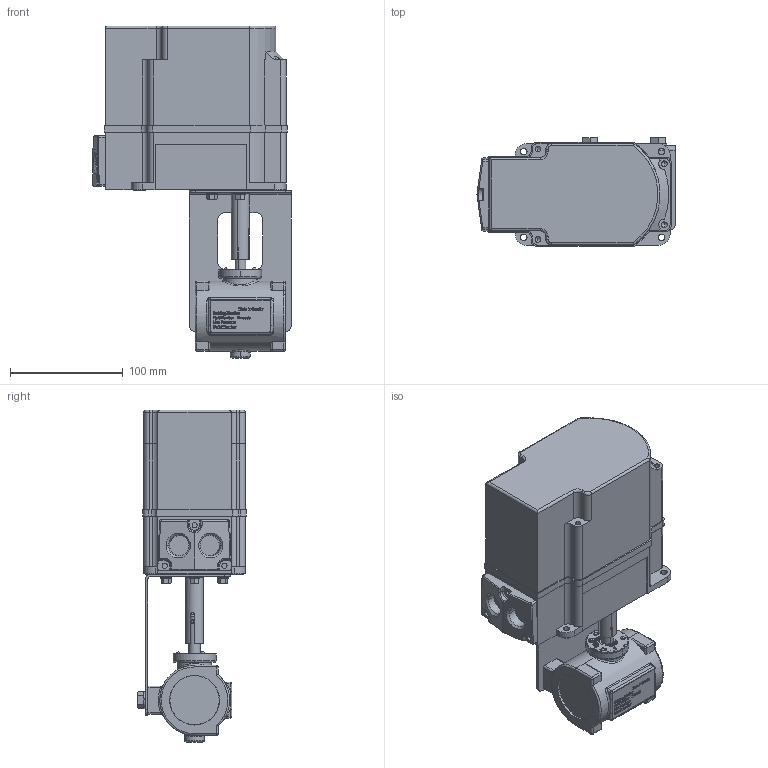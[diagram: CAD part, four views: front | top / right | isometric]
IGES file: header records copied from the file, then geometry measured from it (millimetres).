
Global section: file name: No Iges File Name specified; native system: AutoDesk Inventor R12.0; preprocessor: AutoDesk Inventor Iges Exporter R12.0; date: 20110328.090238; units: millimetre
Bounding box: 175.49 x 96.5 x 294 mm (x, y, z)
Volume: 2145775.6 mm3; surface area: 175693.4 mm2
Topology: 1 solids, 15 shells, 2827 faces, 7563 edges, 4931 vertices
Faces by surface type: plane 1479, bspline 983, cylinder 188, revolution 89, cone 47, torus 27, sphere 14
Full cylindrical faces by diameter (mm): 9.2 x3, 14.8 x2
